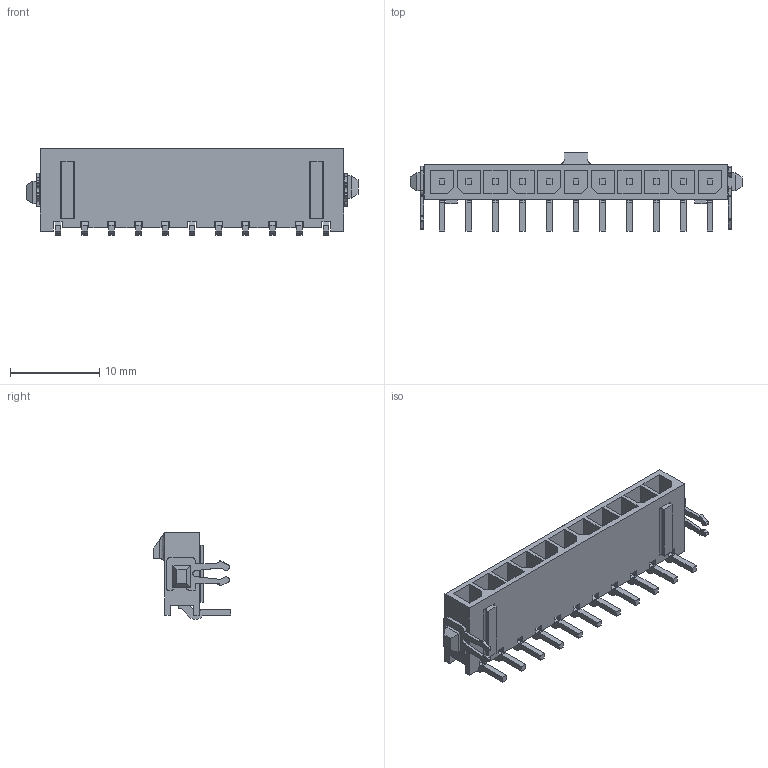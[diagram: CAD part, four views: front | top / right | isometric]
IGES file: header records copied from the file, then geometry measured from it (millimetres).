
Start section:  PTC IGES file: c-3-1445088-1-b-3d.igs
Global section: file name: c-3-1445088-1-b-3d.igs; native system: Pro/ENGINEER by Parametric Technology Corporation; preprocessor: 2009300; author: workeradm; organization: Unknown; units: millimetre
Bounding box: 37.14 x 8.72 x 9.73 mm (x, y, z)
Surface area: 2111 mm2 (no closed solid volume)
Topology: 0 solids, 0 shells, 544 faces, 2994 edges, 2994 vertices
Faces by surface type: bspline 442, revolution 102
